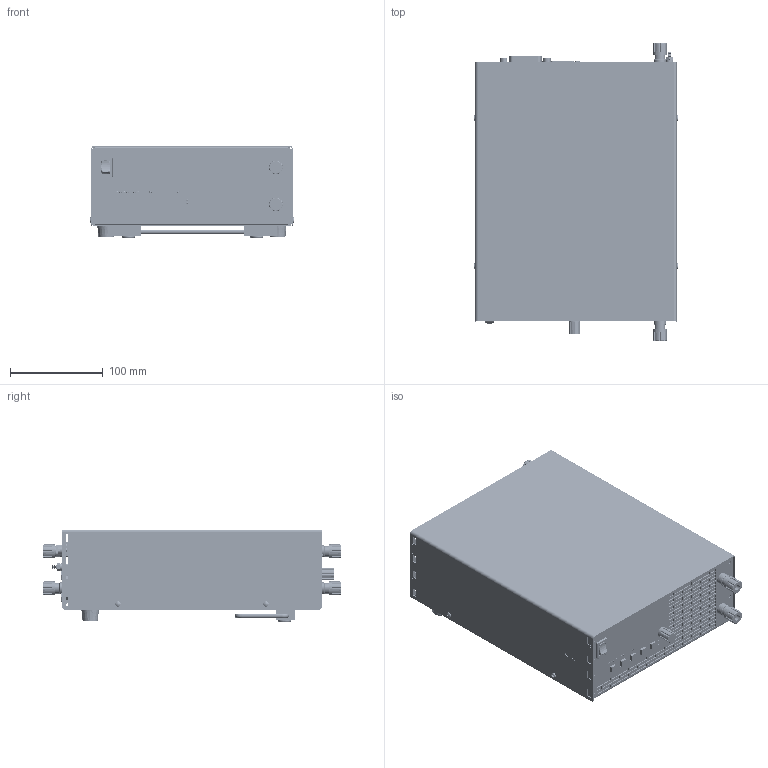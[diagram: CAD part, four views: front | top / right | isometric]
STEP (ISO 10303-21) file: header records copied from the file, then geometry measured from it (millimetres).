
FILE_DESCRIPTION(('STEP AP214'),'1');
FILE_NAME('PLA_M6_19Z_2HE_PK4_30L_PL4_30L_3D_02.step','2024-08-19T14:09:54',(' '),(' '),'Spatial InterOp 3D',' ',' ');
FILE_SCHEMA(('AUTOMOTIVE_DESIGN { 1 0 10303 214 1 1 1 1 }'));
Length unit declared in the file: millimetre
Products named in the file (1): 1
Bounding box: 221.56 x 322.5 x 100.18 mm (x, y, z)
Volume: 4970177.4 mm3; surface area: 672213 mm2
Topology: 94 solids, 97 shells, 8351 faces, 21993 edges, 14105 vertices
Faces by surface type: plane 4062, cone 1982, cylinder 1789, bspline 238, torus 220, sphere 58, extrusion 2
Entity records: 341675 total; most frequent: CARTESIAN_POINT 63352, DIRECTION 43951, ORIENTED_EDGE 43200, EDGE_CURVE 21600, AXIS2_PLACEMENT_3D 14818, VECTOR 14315, LINE 14313, VERTEX_POINT 13537
